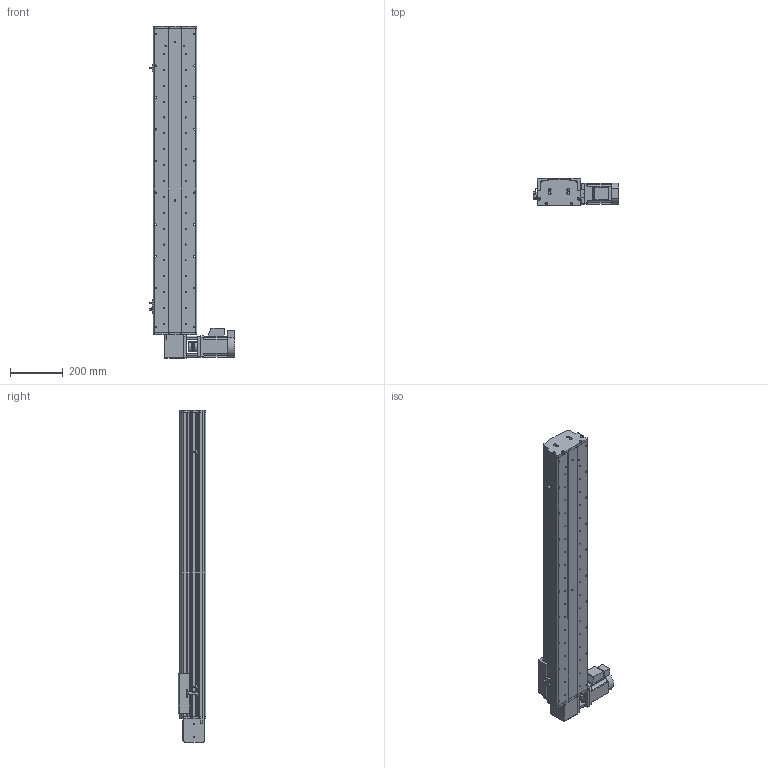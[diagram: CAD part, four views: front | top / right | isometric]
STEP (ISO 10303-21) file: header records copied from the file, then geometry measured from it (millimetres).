
FILE_DESCRIPTION (( 'STEP AP214' ), '1' );
FILE_NAME ('KSD165B-S900-MRT-CM.STEP', '2017-08-14T05:56:54', ( '微软用户' ), ( '微软中国' ), 'SwSTEP 2.0', 'SolidWorks 2014', '' );
FILE_SCHEMA (( 'AUTOMOTIVE_DESIGN' ));
Length unit declared in the file: millimetre
Products named in the file (16): KSD165模组-后端板1-同步带; 130宽马达安装板1-带电机座750W（1）; KSD165模组-同步带滑动座-最新版; KSD165B-S900-MRT-CM; KSD165模组-同步带防尘盖1-900行程-最新版; KSD165模组同步带底板-900行程-最新; 拸秶雄ん750W侜督萇儂; 165宽安装板同步带带电机座750W; 165宽马达安装板同步带右; C39ㄜ1419WP; U倰嫖萇假蚾璃; U倰嫖萇EEㄜSX672; 覜茼え68遵圉猾敕; KSD165模组-同步带-防撞垫2; KSD165模组同步带-防撞垫1; KSD165耀郪-ヶ傷啣1-肮祭湍
Assembly tree (19 placements, depth 2):
  KSD165B-S900-MRT-CM
    KSD165模组-同步带滑动座-最新版
    130宽马达安装板1-带电机座750W（1）
    KSD165模组-后端板1-同步带
    KSD165耀郪-ヶ傷啣1-肮祭湍
    KSD165模组同步带-防撞垫1
    KSD165模组-同步带-防撞垫2
    覜茼え68遵圉猾敕
    U倰嫖萇EEㄜSX672  x3
    U倰嫖萇假蚾璃  x3
    C39ㄜ1419WP
    165宽马达安装板同步带右
    165宽安装板同步带带电机座750W
    拸秶雄ん750W侜督萇儂
    KSD165模组同步带底板-900行程-最新
    KSD165模组-同步带防尘盖1-900行程-最新版
Bounding box: 321.2 x 104 x 1254 mm (x, y, z)
Volume: 7435207.2 mm3; surface area: 1674326.1 mm2
Topology: 20 solids, 20 shells, 1496 faces, 4164 edges, 2697 vertices
Faces by surface type: cylinder 823, plane 579, cone 94
Entity records: 47663 total; most frequent: CARTESIAN_POINT 9989, DIRECTION 7406, ORIENTED_EDGE 6980, EDGE_CURVE 3490, AXIS2_PLACEMENT_3D 2818, VERTEX_POINT 2289, LINE 1770, VECTOR 1770
